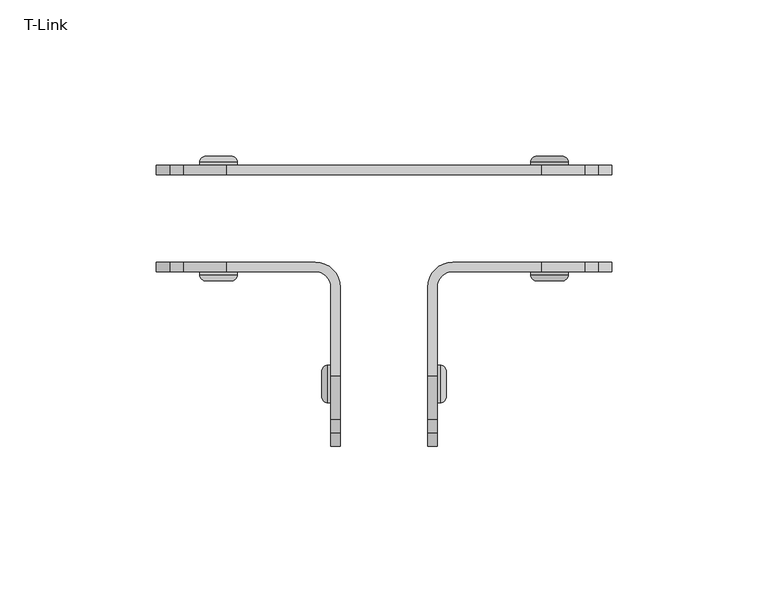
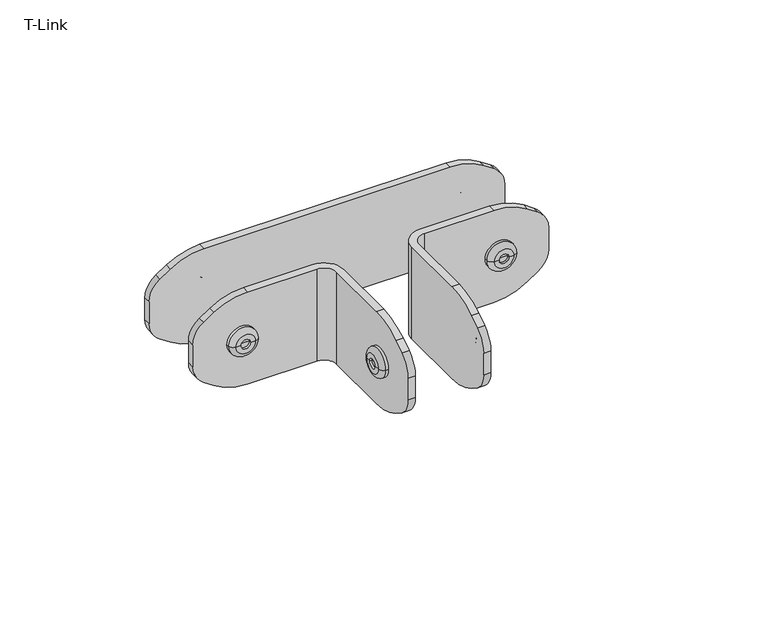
"""IFC4 building model written with IfcOpenShell, lengths in millimetres: furniture geometry, DBLTD_Sixteen3_PrivacyScreens_Artus_Bracket : T-Link."""

from ifc_helpers import new_model, si_unit, point, frame, frame_2d, origin, place, context, project, spatial, polyline, circle_curve, ellipse_curve, trimmed, segment, composite_curve, outline, extrude, source, transform, mapped, element, save
from ifc_brep_helpers import plane_surface, cylinder_surface, revolved_surface, advanced_brep


def t_link_2f3e7760(model_context):
    return source(origin(), model_context, "Body", "SolidModel", [
        advanced_brep(
        [(17.9858199, 773.0, 100.0), (17.9858199, 761.0, 100.0), (17.0, 761.0, 100.0), (17.0, 773.0, 100.0), (17.0, 767.0, 100.0), (19.0, 767.0, 100.0), (19.0, 765.0, 100.0), (19.0, 769.0, 100.0), (20.0, 765.0, 100.0), (20.0, 769.0, 100.0), (20.0, 763.0141801, 100.0), (20.0, 770.9858199, 100.0)],
        [
            (0, 1, circle_curve(frame((17.9858199, 767.0, 100.0), z_axis=(-1.0, 0.0, 0.0), x_axis=(0.0, -1.0, 0.0)), 6.0)),
            (1, 2),
            (2, 3, circle_curve(frame((17.0, 767.0, 100.0), z_axis=(1.0, 0.0, 0.0), x_axis=(0.0, -1.0, 0.0)), 6.0)),
            (3, 0),
            (1, 0, circle_curve(frame((17.9858199, 767.0, 100.0), z_axis=(-1.0, 0.0, 0.0), x_axis=(0.0, -1.0, 0.0)), 6.0)),
            (3, 2, circle_curve(frame((17.0, 767.0, 100.0), z_axis=(1.0, 0.0, 0.0), x_axis=(0.0, -1.0, 0.0)), 6.0)),
            (2, 4),
            (4, 3),
            (5, 6),
            (6, 7, circle_curve(frame((19.0, 767.0, 100.0), z_axis=(1.0, 0.0, 0.0), x_axis=(0.0, -1.0, 0.0)), 2.0)),
            (7, 5),
            (7, 6, circle_curve(frame((19.0, 767.0, 100.0), z_axis=(1.0, 0.0, 0.0), x_axis=(0.0, -1.0, 0.0)), 2.0)),
            (6, 8),
            (8, 9, circle_curve(frame((20.0, 767.0, 100.0), z_axis=(1.0, 0.0, 0.0), x_axis=(0.0, -1.0, 0.0)), 2.0)),
            (9, 7),
            (9, 8, circle_curve(frame((20.0, 767.0, 100.0), z_axis=(1.0, 0.0, 0.0), x_axis=(0.0, -1.0, 0.0)), 2.0)),
            (8, 10),
            (10, 11, circle_curve(frame((20.0, 767.0, 100.0), z_axis=(1.0, 0.0, 0.0), x_axis=(0.0, -1.0, 0.0)), 3.9858199)),
            (11, 9),
            (11, 10, circle_curve(frame((20.0, 767.0, 100.0), z_axis=(1.0, 0.0, 0.0), x_axis=(0.0, -1.0, 0.0)), 3.9858199)),
            (10, 1, circle_curve(frame((17.9858199, 763.0141801, 100.0), z_axis=(0.0, 0.0, -1.0), x_axis=(0.0, 1.0, 0.0)), 2.0141801)),
            (0, 11, circle_curve(frame((17.9858199, 770.9858199, 100.0), z_axis=(0.0, 0.0, -1.0), x_axis=(0.0, -1.0, 0.0)), 2.0141801)),
        ],
        [
            cylinder_surface(frame((18.424474, 767.0, 100.0), z_axis=(1.0, 0.0, 0.0), x_axis=(0.0, -1.0, 0.0)), 6.0),
            plane_surface(frame((17.0, 767.0, 100.0), z_axis=(-1.0, 0.0, 0.0), x_axis=(0.0, -1.0, 0.0))),
            plane_surface(frame((19.0, 767.0, 100.0), z_axis=(1.0, 0.0, 0.0), x_axis=(0.0, -1.0, 0.0))),
            revolved_surface(polyline([(20.0, 765.0, 100.0), (19.0, 765.0, 100.0)]), (18.424474, 767.0, 100.0), (1.0, 0.0, 0.0)),
            plane_surface(frame((20.0, 767.0, 100.0), z_axis=(1.0, 0.0, 0.0), x_axis=(0.0, -1.0, 0.0))),
            revolved_surface(trimmed(ellipse_curve(frame((17.9858199, 763.0141801, 100.0), z_axis=(0.0, 0.0, 1.0), x_axis=(0.0, 1.0, 0.0)), 2.0141801, 2.0141801), [point((17.9858199, 761.0, 100.0))], [point((20.0, 763.0141801, 100.0))], True, "CARTESIAN"), (18.424474, 767.0, 100.0), (1.0, 0.0, 0.0)),
        ],
        [
            (0, [[1, 2, 3, 4]]),
            (0, [[5, -4, 6, -2]]),
            (1, [[-3, 7, 8]]),
            (1, [[-6, -8, -7]]),
            (2, [[9, 10, 11]]),
            (2, [[-11, 12, -9]]),
            (3, [[-10, 13, 14, 15]]),
            (3, [[-12, -15, 16, -13]]),
            (4, [[-14, 17, 18, 19]]),
            (4, [[-16, -19, 20, -17]]),
            (5, [[-18, 21, -1, 22]]),
            (5, [[-20, -22, -5, -21]]),
        ],
    ),
        advanced_brep(
        [(-17.0, 773.0, 100.0), (-17.0, 761.0, 100.0), (-17.9858199, 761.0, 100.0), (-17.9858199, 773.0, 100.0), (-17.0, 767.0, 100.0), (-19.0, 769.0, 100.0), (-19.0, 765.0, 100.0), (-19.0, 767.0, 100.0), (-20.0, 769.0, 100.0), (-20.0, 765.0, 100.0), (-20.0, 770.9858199, 100.0), (-20.0, 763.0141801, 100.0)],
        [
            (0, 1, circle_curve(frame((-17.0, 767.0, 100.0), z_axis=(-1.0, 0.0, 0.0), x_axis=(0.0, -1.0, 0.0)), 6.0)),
            (1, 2),
            (2, 3, circle_curve(frame((-17.9858199, 767.0, 100.0), z_axis=(1.0, 0.0, 0.0), x_axis=(0.0, -1.0, 0.0)), 6.0)),
            (3, 0),
            (1, 0, circle_curve(frame((-17.0, 767.0, 100.0), z_axis=(-1.0, 0.0, 0.0), x_axis=(0.0, -1.0, 0.0)), 6.0)),
            (3, 2, circle_curve(frame((-17.9858199, 767.0, 100.0), z_axis=(1.0, 0.0, 0.0), x_axis=(0.0, -1.0, 0.0)), 6.0)),
            (4, 1),
            (0, 4),
            (5, 6, circle_curve(frame((-19.0, 767.0, 100.0), z_axis=(-1.0, 0.0, 0.0), x_axis=(0.0, -1.0, 0.0)), 2.0)),
            (6, 7),
            (7, 5),
            (6, 5, circle_curve(frame((-19.0, 767.0, 100.0), z_axis=(-1.0, 0.0, 0.0), x_axis=(0.0, -1.0, 0.0)), 2.0)),
            (8, 9, circle_curve(frame((-20.0, 767.0, 100.0), z_axis=(-1.0, 0.0, 0.0), x_axis=(0.0, -1.0, 0.0)), 2.0)),
            (9, 6),
            (5, 8),
            (9, 8, circle_curve(frame((-20.0, 767.0, 100.0), z_axis=(-1.0, 0.0, 0.0), x_axis=(0.0, -1.0, 0.0)), 2.0)),
            (10, 11, circle_curve(frame((-20.0, 767.0, 100.0), z_axis=(-1.0, 0.0, 0.0), x_axis=(0.0, -1.0, 0.0)), 3.9858199)),
            (11, 9),
            (8, 10),
            (11, 10, circle_curve(frame((-20.0, 767.0, 100.0), z_axis=(-1.0, 0.0, 0.0), x_axis=(0.0, -1.0, 0.0)), 3.9858199)),
            (2, 11, circle_curve(frame((-17.9858199, 763.0141801, 100.0), z_axis=(0.0, 0.0, -1.0), x_axis=(0.0, 1.0, 0.0)), 2.0141801)),
            (10, 3, circle_curve(frame((-17.9858199, 770.9858199, 100.0), z_axis=(0.0, 0.0, -1.0), x_axis=(0.0, -1.0, 0.0)), 2.0141801)),
        ],
        [
            cylinder_surface(frame((-18.424474, 767.0, 100.0), z_axis=(1.0, 0.0, 0.0), x_axis=(0.0, -1.0, 0.0)), 6.0),
            plane_surface(frame((-17.0, 767.0, 100.0), z_axis=(1.0, 0.0, 0.0), x_axis=(0.0, -1.0, 0.0))),
            plane_surface(frame((-19.0, 767.0, 100.0), z_axis=(-1.0, 0.0, 0.0), x_axis=(0.0, -1.0, 0.0))),
            revolved_surface(polyline([(-19.0, 765.0, 100.0), (-20.0, 765.0, 100.0)]), (-18.424474, 767.0, 100.0), (1.0, 0.0, 0.0)),
            plane_surface(frame((-20.0, 767.0, 100.0), z_axis=(-1.0, 0.0, 0.0), x_axis=(0.0, -1.0, 0.0))),
            revolved_surface(trimmed(ellipse_curve(frame((-17.9858199, 763.0141801, 100.0), z_axis=(0.0, 0.0, 1.0), x_axis=(0.0, 1.0, 0.0)), 2.0141801, 2.0141801), [point((-20.0, 763.0141801, 100.0))], [point((-17.9858199, 761.0, 100.0))], True, "CARTESIAN"), (-18.424474, 767.0, 100.0), (1.0, 0.0, 0.0)),
        ],
        [
            (0, [[1, 2, 3, 4]]),
            (0, [[5, -4, 6, -2]]),
            (1, [[7, -1, 8]]),
            (1, [[-8, -5, -7]]),
            (2, [[9, 10, 11]]),
            (2, [[12, -11, -10]]),
            (3, [[13, 14, -9, 15]]),
            (3, [[16, -15, -12, -14]]),
            (4, [[17, 18, -13, 19]]),
            (4, [[20, -19, -16, -18]]),
            (5, [[-3, 21, -17, 22]]),
            (5, [[-6, -22, -20, -21]]),
        ],
    ),
        advanced_brep(
        [(47.0, 803.0, 100.0), (59.0, 803.0, 100.0), (59.0, 802.0141801, 100.0), (47.0, 802.0141801, 100.0), (53.0, 803.0, 100.0), (51.0, 801.0, 100.0), (55.0, 801.0, 100.0), (53.0, 801.0, 100.0), (51.0, 800.0, 100.0), (55.0, 800.0, 100.0), (49.0141801, 800.0, 100.0), (56.9858199, 800.0, 100.0)],
        [
            (0, 1, circle_curve(frame((53.0, 803.0, 100.0), z_axis=(0.0, -1.0, 0.0), x_axis=(1.0, 0.0, 0.0)), 6.0)),
            (1, 2),
            (2, 3, circle_curve(frame((53.0, 802.0141801, 100.0), z_axis=(0.0, 1.0, 0.0), x_axis=(1.0, 0.0, 0.0)), 6.0)),
            (3, 0),
            (1, 0, circle_curve(frame((53.0, 803.0, 100.0), z_axis=(0.0, -1.0, 0.0), x_axis=(1.0, 0.0, 0.0)), 6.0)),
            (3, 2, circle_curve(frame((53.0, 802.0141801, 100.0), z_axis=(0.0, 1.0, 0.0), x_axis=(1.0, 0.0, 0.0)), 6.0)),
            (4, 1),
            (0, 4),
            (5, 6, circle_curve(frame((53.0, 801.0, 100.0), z_axis=(0.0, -1.0, 0.0), x_axis=(1.0, 0.0, 0.0)), 2.0)),
            (6, 7),
            (7, 5),
            (6, 5, circle_curve(frame((53.0, 801.0, 100.0), z_axis=(0.0, -1.0, 0.0), x_axis=(1.0, 0.0, 0.0)), 2.0)),
            (8, 9, circle_curve(frame((53.0, 800.0, 100.0), z_axis=(0.0, -1.0, 0.0), x_axis=(1.0, 0.0, 0.0)), 2.0)),
            (9, 6),
            (5, 8),
            (9, 8, circle_curve(frame((53.0, 800.0, 100.0), z_axis=(0.0, -1.0, 0.0), x_axis=(1.0, 0.0, 0.0)), 2.0)),
            (10, 11, circle_curve(frame((53.0, 800.0, 100.0), z_axis=(0.0, -1.0, 0.0), x_axis=(1.0, 0.0, 0.0)), 3.9858199)),
            (11, 9),
            (8, 10),
            (11, 10, circle_curve(frame((53.0, 800.0, 100.0), z_axis=(0.0, -1.0, 0.0), x_axis=(1.0, 0.0, 0.0)), 3.9858199)),
            (2, 11, circle_curve(frame((56.9858199, 802.0141801, 100.0), z_axis=(0.0, 0.0, -1.0), x_axis=(-1.0, 0.0, 0.0)), 2.0141801)),
            (10, 3, circle_curve(frame((49.0141801, 802.0141801, 100.0), z_axis=(0.0, 0.0, -1.0), x_axis=(1.0, 0.0, 0.0)), 2.0141801)),
        ],
        [
            cylinder_surface(frame((53.0, 801.575526, 100.0), z_axis=(0.0, 1.0, 0.0), x_axis=(1.0, 0.0, 0.0)), 6.0),
            plane_surface(frame((53.0, 803.0, 100.0), z_axis=(0.0, 1.0, 0.0), x_axis=(1.0, 0.0, 0.0))),
            plane_surface(frame((53.0, 801.0, 100.0), z_axis=(0.0, -1.0, 0.0), x_axis=(1.0, 0.0, 0.0))),
            revolved_surface(polyline([(55.0, 801.0, 100.0), (55.0, 800.0, 100.0)]), (53.0, 801.575526, 100.0), (0.0, 1.0, 0.0)),
            plane_surface(frame((53.0, 800.0, 100.0), z_axis=(0.0, -1.0, 0.0), x_axis=(1.0, 0.0, 0.0))),
            revolved_surface(trimmed(ellipse_curve(frame((56.9858199, 802.0141801, 100.0), z_axis=(0.0, 0.0, 1.0), x_axis=(-1.0, 0.0, 0.0)), 2.0141801, 2.0141801), [point((56.9858199, 800.0, 100.0))], [point((59.0, 802.0141801, 100.0))], True, "CARTESIAN"), (53.0, 801.575526, 100.0), (0.0, 1.0, 0.0)),
        ],
        [
            (0, [[1, 2, 3, 4]]),
            (0, [[5, -4, 6, -2]]),
            (1, [[7, -1, 8]]),
            (1, [[-8, -5, -7]]),
            (2, [[9, 10, 11]]),
            (2, [[12, -11, -10]]),
            (3, [[13, 14, -9, 15]]),
            (3, [[16, -15, -12, -14]]),
            (4, [[17, 18, -13, 19]]),
            (4, [[20, -19, -16, -18]]),
            (5, [[-3, 21, -17, 22]]),
            (5, [[-6, -22, -20, -21]]),
        ],
    ),
        advanced_brep(
        [(47.0, 837.9858199, 100.0), (59.0, 837.9858199, 100.0), (59.0, 837.0, 100.0), (47.0, 837.0, 100.0), (53.0, 837.0, 100.0), (53.0, 839.0, 100.0), (55.0, 839.0, 100.0), (51.0, 839.0, 100.0), (55.0, 840.0, 100.0), (51.0, 840.0, 100.0), (56.9858199, 840.0, 100.0), (49.0141801, 840.0, 100.0)],
        [
            (0, 1, circle_curve(frame((53.0, 837.9858199, 100.0), z_axis=(0.0, -1.0, 0.0), x_axis=(1.0, 0.0, 0.0)), 6.0)),
            (1, 2),
            (2, 3, circle_curve(frame((53.0, 837.0, 100.0), z_axis=(0.0, 1.0, 0.0), x_axis=(1.0, 0.0, 0.0)), 6.0)),
            (3, 0),
            (1, 0, circle_curve(frame((53.0, 837.9858199, 100.0), z_axis=(0.0, -1.0, 0.0), x_axis=(1.0, 0.0, 0.0)), 6.0)),
            (3, 2, circle_curve(frame((53.0, 837.0, 100.0), z_axis=(0.0, 1.0, 0.0), x_axis=(1.0, 0.0, 0.0)), 6.0)),
            (2, 4),
            (4, 3),
            (5, 6),
            (6, 7, circle_curve(frame((53.0, 839.0, 100.0), z_axis=(0.0, 1.0, 0.0), x_axis=(1.0, 0.0, 0.0)), 2.0)),
            (7, 5),
            (7, 6, circle_curve(frame((53.0, 839.0, 100.0), z_axis=(0.0, 1.0, 0.0), x_axis=(1.0, 0.0, 0.0)), 2.0)),
            (6, 8),
            (8, 9, circle_curve(frame((53.0, 840.0, 100.0), z_axis=(0.0, 1.0, 0.0), x_axis=(1.0, 0.0, 0.0)), 2.0)),
            (9, 7),
            (9, 8, circle_curve(frame((53.0, 840.0, 100.0), z_axis=(0.0, 1.0, 0.0), x_axis=(1.0, 0.0, 0.0)), 2.0)),
            (8, 10),
            (10, 11, circle_curve(frame((53.0, 840.0, 100.0), z_axis=(0.0, 1.0, 0.0), x_axis=(1.0, 0.0, 0.0)), 3.9858199)),
            (11, 9),
            (11, 10, circle_curve(frame((53.0, 840.0, 100.0), z_axis=(0.0, 1.0, 0.0), x_axis=(1.0, 0.0, 0.0)), 3.9858199)),
            (10, 1, circle_curve(frame((56.9858199, 837.9858199, 100.0), z_axis=(0.0, 0.0, -1.0), x_axis=(-1.0, 0.0, 0.0)), 2.0141801)),
            (0, 11, circle_curve(frame((49.0141801, 837.9858199, 100.0), z_axis=(0.0, 0.0, -1.0), x_axis=(1.0, 0.0, 0.0)), 2.0141801)),
        ],
        [
            cylinder_surface(frame((53.0, 838.424474, 100.0), z_axis=(0.0, 1.0, 0.0), x_axis=(1.0, 0.0, 0.0)), 6.0),
            plane_surface(frame((53.0, 837.0, 100.0), z_axis=(0.0, -1.0, 0.0), x_axis=(1.0, 0.0, 0.0))),
            plane_surface(frame((53.0, 839.0, 100.0), z_axis=(0.0, 1.0, 0.0), x_axis=(1.0, 0.0, 0.0))),
            revolved_surface(polyline([(55.0, 840.0, 100.0), (55.0, 839.0, 100.0)]), (53.0, 838.424474, 100.0), (0.0, 1.0, 0.0)),
            plane_surface(frame((53.0, 840.0, 100.0), z_axis=(0.0, 1.0, 0.0), x_axis=(1.0, 0.0, 0.0))),
            revolved_surface(trimmed(ellipse_curve(frame((56.9858199, 837.9858199, 100.0), z_axis=(0.0, 0.0, 1.0), x_axis=(-1.0, 0.0, 0.0)), 2.0141801, 2.0141801), [point((59.0, 837.9858199, 100.0))], [point((56.9858199, 840.0, 100.0))], True, "CARTESIAN"), (53.0, 838.424474, 100.0), (0.0, 1.0, 0.0)),
        ],
        [
            (0, [[1, 2, 3, 4]]),
            (0, [[5, -4, 6, -2]]),
            (1, [[-3, 7, 8]]),
            (1, [[-6, -8, -7]]),
            (2, [[9, 10, 11]]),
            (2, [[-11, 12, -9]]),
            (3, [[-10, 13, 14, 15]]),
            (3, [[-12, -15, 16, -13]]),
            (4, [[-14, 17, 18, 19]]),
            (4, [[-16, -19, 20, -17]]),
            (5, [[-18, 21, -1, 22]]),
            (5, [[-20, -22, -5, -21]]),
        ],
    ),
        advanced_brep(
        [(-47.0, 802.0141801, 100.0), (-59.0, 802.0141801, 100.0), (-59.0, 803.0, 100.0), (-47.0, 803.0, 100.0), (-53.0, 803.0, 100.0), (-53.0, 801.0, 100.0), (-55.0, 801.0, 100.0), (-51.0, 801.0, 100.0), (-55.0, 800.0, 100.0), (-51.0, 800.0, 100.0), (-56.9858199, 800.0, 100.0), (-49.0141801, 800.0, 100.0)],
        [
            (0, 1, circle_curve(frame((-53.0, 802.0141801, 100.0), z_axis=(0.0, 1.0, 0.0), x_axis=(-1.0, 0.0, 0.0)), 6.0)),
            (1, 2),
            (2, 3, circle_curve(frame((-53.0, 803.0, 100.0), z_axis=(0.0, -1.0, 0.0), x_axis=(-1.0, 0.0, 0.0)), 6.0)),
            (3, 0),
            (1, 0, circle_curve(frame((-53.0, 802.0141801, 100.0), z_axis=(0.0, 1.0, 0.0), x_axis=(-1.0, 0.0, 0.0)), 6.0)),
            (3, 2, circle_curve(frame((-53.0, 803.0, 100.0), z_axis=(0.0, -1.0, 0.0), x_axis=(-1.0, 0.0, 0.0)), 6.0)),
            (2, 4),
            (4, 3),
            (5, 6),
            (6, 7, circle_curve(frame((-53.0, 801.0, 100.0), z_axis=(0.0, -1.0, 0.0), x_axis=(-1.0, 0.0, 0.0)), 2.0)),
            (7, 5),
            (7, 6, circle_curve(frame((-53.0, 801.0, 100.0), z_axis=(0.0, -1.0, 0.0), x_axis=(-1.0, 0.0, 0.0)), 2.0)),
            (6, 8),
            (8, 9, circle_curve(frame((-53.0, 800.0, 100.0), z_axis=(0.0, -1.0, 0.0), x_axis=(-1.0, 0.0, 0.0)), 2.0)),
            (9, 7),
            (9, 8, circle_curve(frame((-53.0, 800.0, 100.0), z_axis=(0.0, -1.0, 0.0), x_axis=(-1.0, 0.0, 0.0)), 2.0)),
            (8, 10),
            (10, 11, circle_curve(frame((-53.0, 800.0, 100.0), z_axis=(0.0, -1.0, 0.0), x_axis=(-1.0, 0.0, 0.0)), 3.9858199)),
            (11, 9),
            (11, 10, circle_curve(frame((-53.0, 800.0, 100.0), z_axis=(0.0, -1.0, 0.0), x_axis=(-1.0, 0.0, 0.0)), 3.9858199)),
            (10, 1, circle_curve(frame((-56.9858199, 802.0141801, 100.0), z_axis=(0.0, 0.0, -1.0), x_axis=(1.0, 0.0, 0.0)), 2.0141801)),
            (0, 11, circle_curve(frame((-49.0141801, 802.0141801, 100.0), z_axis=(0.0, 0.0, -1.0), x_axis=(-1.0, 0.0, 0.0)), 2.0141801)),
        ],
        [
            cylinder_surface(frame((-53.0, 801.575526, 100.0), z_axis=(0.0, -1.0, 0.0), x_axis=(-1.0, 0.0, 0.0)), 6.0),
            plane_surface(frame((-53.0, 803.0, 100.0), z_axis=(0.0, 1.0, 0.0), x_axis=(-1.0, 0.0, 0.0))),
            plane_surface(frame((-53.0, 801.0, 100.0), z_axis=(0.0, -1.0, 0.0), x_axis=(-1.0, 0.0, 0.0))),
            revolved_surface(polyline([(-55.0, 800.0, 100.0), (-55.0, 801.0, 100.0)]), (-53.0, 801.575526, 100.0), (0.0, -1.0, 0.0)),
            plane_surface(frame((-53.0, 800.0, 100.0), z_axis=(0.0, -1.0, 0.0), x_axis=(-1.0, 0.0, 0.0))),
            revolved_surface(trimmed(ellipse_curve(frame((-56.9858199, 802.0141801, 100.0), z_axis=(0.0, 0.0, 1.0), x_axis=(1.0, 0.0, 0.0)), 2.0141801, 2.0141801), [point((-59.0, 802.0141801, 100.0))], [point((-56.9858199, 800.0, 100.0))], True, "CARTESIAN"), (-53.0, 801.575526, 100.0), (0.0, -1.0, 0.0)),
        ],
        [
            (0, [[1, 2, 3, 4]]),
            (0, [[5, -4, 6, -2]]),
            (1, [[-3, 7, 8]]),
            (1, [[-6, -8, -7]]),
            (2, [[9, 10, 11]]),
            (2, [[-11, 12, -9]]),
            (3, [[-10, 13, 14, 15]]),
            (3, [[-12, -15, 16, -13]]),
            (4, [[-14, 17, 18, 19]]),
            (4, [[-16, -19, 20, -17]]),
            (5, [[-18, 21, -1, 22]]),
            (5, [[-20, -22, -5, -21]]),
        ],
    ),
        advanced_brep(
        [(-47.0, 837.0, 100.0), (-59.0, 837.0, 100.0), (-59.0, 837.9858199, 100.0), (-47.0, 837.9858199, 100.0), (-53.0, 837.0, 100.0), (-51.0, 839.0, 100.0), (-55.0, 839.0, 100.0), (-53.0, 839.0, 100.0), (-51.0, 840.0, 100.0), (-55.0, 840.0, 100.0), (-49.0141801, 840.0, 100.0), (-56.9858199, 840.0, 100.0)],
        [
            (0, 1, circle_curve(frame((-53.0, 837.0, 100.0), z_axis=(0.0, 1.0, 0.0), x_axis=(-1.0, 0.0, 0.0)), 6.0)),
            (1, 2),
            (2, 3, circle_curve(frame((-53.0, 837.9858199, 100.0), z_axis=(0.0, -1.0, 0.0), x_axis=(-1.0, 0.0, 0.0)), 6.0)),
            (3, 0),
            (1, 0, circle_curve(frame((-53.0, 837.0, 100.0), z_axis=(0.0, 1.0, 0.0), x_axis=(-1.0, 0.0, 0.0)), 6.0)),
            (3, 2, circle_curve(frame((-53.0, 837.9858199, 100.0), z_axis=(0.0, -1.0, 0.0), x_axis=(-1.0, 0.0, 0.0)), 6.0)),
            (4, 1),
            (0, 4),
            (5, 6, circle_curve(frame((-53.0, 839.0, 100.0), z_axis=(0.0, 1.0, 0.0), x_axis=(-1.0, 0.0, 0.0)), 2.0)),
            (6, 7),
            (7, 5),
            (6, 5, circle_curve(frame((-53.0, 839.0, 100.0), z_axis=(0.0, 1.0, 0.0), x_axis=(-1.0, 0.0, 0.0)), 2.0)),
            (8, 9, circle_curve(frame((-53.0, 840.0, 100.0), z_axis=(0.0, 1.0, 0.0), x_axis=(-1.0, 0.0, 0.0)), 2.0)),
            (9, 6),
            (5, 8),
            (9, 8, circle_curve(frame((-53.0, 840.0, 100.0), z_axis=(0.0, 1.0, 0.0), x_axis=(-1.0, 0.0, 0.0)), 2.0)),
            (10, 11, circle_curve(frame((-53.0, 840.0, 100.0), z_axis=(0.0, 1.0, 0.0), x_axis=(-1.0, 0.0, 0.0)), 3.9858199)),
            (11, 9),
            (8, 10),
            (11, 10, circle_curve(frame((-53.0, 840.0, 100.0), z_axis=(0.0, 1.0, 0.0), x_axis=(-1.0, 0.0, 0.0)), 3.9858199)),
            (2, 11, circle_curve(frame((-56.9858199, 837.9858199, 100.0), z_axis=(0.0, 0.0, -1.0), x_axis=(1.0, 0.0, 0.0)), 2.0141801)),
            (10, 3, circle_curve(frame((-49.0141801, 837.9858199, 100.0), z_axis=(0.0, 0.0, -1.0), x_axis=(-1.0, 0.0, 0.0)), 2.0141801)),
        ],
        [
            cylinder_surface(frame((-53.0, 838.424474, 100.0), z_axis=(0.0, -1.0, 0.0), x_axis=(-1.0, 0.0, 0.0)), 6.0),
            plane_surface(frame((-53.0, 837.0, 100.0), z_axis=(0.0, -1.0, 0.0), x_axis=(-1.0, 0.0, 0.0))),
            plane_surface(frame((-53.0, 839.0, 100.0), z_axis=(0.0, 1.0, 0.0), x_axis=(-1.0, 0.0, 0.0))),
            revolved_surface(polyline([(-55.0, 839.0, 100.0), (-55.0, 840.0, 100.0)]), (-53.0, 838.424474, 100.0), (0.0, -1.0, 0.0)),
            plane_surface(frame((-53.0, 840.0, 100.0), z_axis=(0.0, 1.0, 0.0), x_axis=(-1.0, 0.0, 0.0))),
            revolved_surface(trimmed(ellipse_curve(frame((-56.9858199, 837.9858199, 100.0), z_axis=(0.0, 0.0, 1.0), x_axis=(1.0, 0.0, 0.0)), 2.0141801, 2.0141801), [point((-56.9858199, 840.0, 100.0))], [point((-59.0, 837.9858199, 100.0))], True, "CARTESIAN"), (-53.0, 838.424474, 100.0), (0.0, -1.0, 0.0)),
        ],
        [
            (0, [[1, 2, 3, 4]]),
            (0, [[5, -4, 6, -2]]),
            (1, [[7, -1, 8]]),
            (1, [[-8, -5, -7]]),
            (2, [[9, 10, 11]]),
            (2, [[12, -11, -10]]),
            (3, [[13, 14, -9, 15]]),
            (3, [[16, -15, -12, -14]]),
            (4, [[17, 18, -13, 19]]),
            (4, [[20, -19, -16, -18]]),
            (5, [[-3, 21, -17, 22]]),
            (5, [[-6, -22, -20, -21]]),
        ],
    ),
        advanced_brep(
        [(22.0, 806.0, 120.0), (14.0, 798.0, 120.0), (14.0, 769.5693909, 120.0), (17.0, 769.5693909, 120.0), (17.0, 798.0, 120.0), (22.0, 803.0, 120.0), (50.4306091, 803.0, 120.0), (50.4306091, 806.0, 120.0), (22.0, 803.0, 80.0), (17.0, 798.0, 80.0), (17.0, 769.5693909, 80.0), (14.0, 769.5693909, 80.0), (14.0, 798.0, 80.0), (22.0, 806.0, 80.0), (50.4306091, 806.0, 80.0), (50.4306091, 803.0, 80.0), (17.0, 755.701886, 115.8012574), (17.0, 751.452998, 112.9686654), (17.0, 747.0, 104.6481624), (17.0, 747.0, 95.3518376), (17.0, 751.452998, 87.0313346), (17.0, 755.701886, 84.1987426), (14.0, 747.0, 104.6481624), (14.0, 747.0, 95.3518376), (14.0, 755.701886, 84.1987426), (14.0, 751.452998, 87.0313346), (14.0, 751.452998, 112.9686654), (14.0, 755.701886, 115.8012574), (64.298114, 806.0, 115.8012574), (68.547002, 806.0, 112.9686654), (73.0, 806.0, 104.6481624), (73.0, 806.0, 95.3518376), (68.547002, 806.0, 87.0313346), (64.298114, 806.0, 84.1987426), (73.0, 803.0, 104.6481624), (73.0, 803.0, 95.3518376), (64.298114, 803.0, 84.1987426), (68.547002, 803.0, 87.0313346), (68.547002, 803.0, 112.9686654), (64.298114, 803.0, 115.8012574)],
        [
            (0, 1, circle_curve(frame((22.0, 798.0, 120.0), z_axis=(0.0, 0.0, 1.0), x_axis=(0.0, 1.0, 0.0)), 8.0)),
            (1, 2),
            (2, 3),
            (3, 4),
            (4, 5, circle_curve(frame((22.0, 798.0, 120.0), z_axis=(0.0, 0.0, -1.0), x_axis=(0.0, 1.0, 0.0)), 5.0)),
            (5, 6),
            (6, 7),
            (7, 0),
            (8, 9, circle_curve(frame((22.0, 798.0, 80.0), z_axis=(0.0, 0.0, 1.0), x_axis=(0.0, 1.0, 0.0)), 5.0)),
            (9, 10),
            (10, 11),
            (11, 12),
            (12, 13, circle_curve(frame((22.0, 798.0, 80.0), z_axis=(0.0, 0.0, -1.0), x_axis=(0.0, 1.0, 0.0)), 8.0)),
            (13, 14),
            (14, 15),
            (15, 8),
            (4, 9),
            (8, 5),
            (3, 16, circle_curve(frame((17.0, 769.5693909, 95.0), z_axis=(1.0, 0.0, 0.0), x_axis=(0.0, 1.0, 0.0)), 25.0)),
            (16, 17),
            (17, 18, circle_curve(frame((17.0, 757.0, 104.6481624), z_axis=(1.0, 0.0, 0.0), x_axis=(0.0, 1.0, 0.0)), 10.0)),
            (18, 19),
            (19, 20, circle_curve(frame((17.0, 757.0, 95.3518376), z_axis=(1.0, 0.0, 0.0), x_axis=(0.0, 1.0, 0.0)), 10.0)),
            (20, 21),
            (21, 10, circle_curve(frame((17.0, 769.5693909, 105.0), z_axis=(1.0, 0.0, 0.0), x_axis=(0.0, 1.0, 0.0)), 25.0)),
            (18, 22),
            (22, 23),
            (23, 19),
            (1, 12),
            (11, 24, circle_curve(frame((14.0, 769.5693909, 105.0), z_axis=(-1.0, 0.0, 0.0), x_axis=(0.0, 1.0, 0.0)), 25.0)),
            (24, 25),
            (25, 23, circle_curve(frame((14.0, 757.0, 95.3518376), z_axis=(-1.0, 0.0, 0.0), x_axis=(0.0, 1.0, 0.0)), 10.0)),
            (22, 26, circle_curve(frame((14.0, 757.0, 104.6481624), z_axis=(-1.0, 0.0, 0.0), x_axis=(0.0, 1.0, 0.0)), 10.0)),
            (26, 27),
            (27, 2, circle_curve(frame((14.0, 769.5693909, 95.0), z_axis=(-1.0, 0.0, 0.0), x_axis=(0.0, 1.0, 0.0)), 25.0)),
            (0, 13),
            (7, 28, circle_curve(frame((50.4306091, 806.0, 95.0), z_axis=(0.0, 1.0, 0.0), x_axis=(-1.0, 0.0, 0.0)), 25.0)),
            (28, 29),
            (29, 30, circle_curve(frame((63.0, 806.0, 104.6481624), z_axis=(0.0, 1.0, 0.0), x_axis=(-1.0, 0.0, 0.0)), 10.0)),
            (30, 31),
            (31, 32, circle_curve(frame((63.0, 806.0, 95.3518376), z_axis=(0.0, 1.0, 0.0), x_axis=(-1.0, 0.0, 0.0)), 10.0)),
            (32, 33),
            (33, 14, circle_curve(frame((50.4306091, 806.0, 105.0), z_axis=(0.0, 1.0, 0.0), x_axis=(-1.0, 0.0, 0.0)), 25.0)),
            (30, 34),
            (34, 35),
            (35, 31),
            (15, 36, circle_curve(frame((50.4306091, 803.0, 105.0), z_axis=(0.0, -1.0, 0.0), x_axis=(-1.0, 0.0, 0.0)), 25.0)),
            (36, 37),
            (37, 35, circle_curve(frame((63.0, 803.0, 95.3518376), z_axis=(0.0, -1.0, 0.0), x_axis=(-1.0, 0.0, 0.0)), 10.0)),
            (34, 38, circle_curve(frame((63.0, 803.0, 104.6481624), z_axis=(0.0, -1.0, 0.0), x_axis=(-1.0, 0.0, 0.0)), 10.0)),
            (38, 39),
            (39, 6, circle_curve(frame((50.4306091, 803.0, 95.0), z_axis=(0.0, -1.0, 0.0), x_axis=(-1.0, 0.0, 0.0)), 25.0)),
            (25, 20),
            (24, 21),
            (27, 16),
            (26, 17),
            (37, 32),
            (36, 33),
            (39, 28),
            (38, 29),
        ],
        [
            plane_surface(frame((73.0, 803.0, 120.0), z_axis=(0.0, 0.0, 1.0), x_axis=(1.0, 0.0, 0.0))),
            plane_surface(frame((73.0, 803.0, 80.0), z_axis=(0.0, 0.0, -1.0), x_axis=(-1.0, 0.0, 0.0))),
            revolved_surface(polyline([(22.0, 803.0, 80.0), (22.0, 803.0, 120.0)]), (22.0, 798.0, 80.0), (0.0, 0.0, -1.0)),
            plane_surface(frame((17.0, 747.0, 120.0), z_axis=(1.0, 0.0, 0.0), x_axis=(0.0, 0.0, -1.0))),
            plane_surface(frame((14.0, 747.0, 120.0), z_axis=(0.0, -1.0, 0.0), x_axis=(0.0, 0.0, -1.0))),
            plane_surface(frame((14.0, 798.0, 120.0), z_axis=(-1.0, 0.0, 0.0), x_axis=(0.0, 0.0, -1.0))),
            cylinder_surface(frame((22.0, 798.0, 80.0), z_axis=(0.0, 0.0, 1.0), x_axis=(0.0, 1.0, 0.0)), 8.0),
            plane_surface(frame((73.0, 806.0, 120.0), z_axis=(0.0, 1.0, 0.0), x_axis=(0.0, 0.0, -1.0))),
            plane_surface(frame((73.0, 803.0, 120.0), z_axis=(1.0, 0.0, 0.0), x_axis=(0.0, 0.0, -1.0))),
            plane_surface(frame((22.0, 803.0, 120.0), z_axis=(0.0, -1.0, 0.0), x_axis=(0.0, 0.0, -1.0))),
            cylinder_surface(frame((820.0, 757.0, 95.3518376), z_axis=(-1.0, 0.0, 0.0), x_axis=(0.0, 1.0, 0.0)), 10.0),
            plane_surface(frame((17.0, 755.701886, 84.1987426), z_axis=(0.0, -0.5547001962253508, -0.8320502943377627), x_axis=(-1.0, 0.0, 0.0))),
            cylinder_surface(frame((820.0, 769.5693909, 105.0), z_axis=(-1.0, 0.0, 0.0), x_axis=(0.0, 1.0, 0.0)), 25.0),
            cylinder_surface(frame((820.0, 769.5693909, 95.0), z_axis=(-1.0, 0.0, 0.0), x_axis=(0.0, 1.0, 0.0)), 25.0),
            plane_surface(frame((17.0, 751.452998, 112.9686654), z_axis=(0.0, -0.5547001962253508, 0.8320502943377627), x_axis=(-1.0, 0.0, 0.0))),
            cylinder_surface(frame((820.0, 757.0, 104.6481624), z_axis=(-1.0, 0.0, 0.0), x_axis=(0.0, 1.0, 0.0)), 10.0),
            cylinder_surface(frame((63.0, 0.0, 95.3518376), z_axis=(0.0, 1.0, 0.0), x_axis=(-1.0, 0.0, 0.0)), 10.0),
            plane_surface(frame((68.547002, 803.0, 87.0313346), z_axis=(0.5547001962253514, 0.0, -0.8320502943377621), x_axis=(0.0, 1.0, 0.0))),
            cylinder_surface(frame((50.4306091, 0.0, 105.0), z_axis=(0.0, 1.0, 0.0), x_axis=(-1.0, 0.0, 0.0)), 25.0),
            cylinder_surface(frame((50.4306091, 0.0, 95.0), z_axis=(0.0, 1.0, 0.0), x_axis=(-1.0, 0.0, 0.0)), 25.0),
            plane_surface(frame((64.298114, 803.0, 115.8012574), z_axis=(0.5547001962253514, 0.0, 0.8320502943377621), x_axis=(0.0, 1.0, 0.0))),
            cylinder_surface(frame((63.0, 0.0, 104.6481624), z_axis=(0.0, 1.0, 0.0), x_axis=(-1.0, 0.0, 0.0)), 10.0),
        ],
        [
            (0, [[1, 2, 3, 4, 5, 6, 7, 8]]),
            (1, [[9, 10, 11, 12, 13, 14, 15, 16]]),
            (2, [[-5, 17, -9, 18]]),
            (3, [[-17, -4, 19, 20, 21, 22, 23, 24, 25, -10]]),
            (4, [[-22, 26, 27, 28]]),
            (5, [[29, -12, 30, 31, 32, -27, 33, 34, 35, -2]]),
            (6, [[-1, 36, -13, -29]]),
            (7, [[-36, -8, 37, 38, 39, 40, 41, 42, 43, -14]]),
            (8, [[-40, 44, 45, 46]]),
            (9, [[-18, -16, 47, 48, 49, -45, 50, 51, 52, -6]]),
            (10, [[53, -23, -28, -32]]),
            (11, [[-53, -31, 54, -24]]),
            (12, [[-54, -30, -11, -25]]),
            (13, [[55, -19, -3, -35]]),
            (14, [[-55, -34, 56, -20]]),
            (15, [[-56, -33, -26, -21]]),
            (16, [[57, -41, -46, -49]]),
            (17, [[-57, -48, 58, -42]]),
            (18, [[-58, -47, -15, -43]]),
            (19, [[59, -37, -7, -52]]),
            (20, [[-59, -51, 60, -38]]),
            (21, [[-60, -50, -44, -39]]),
        ],
    ),
        advanced_brep(
        [(-22.0, 803.0, 120.0), (-17.0, 798.0, 120.0), (-17.0, 769.5693909, 120.0), (-14.0, 769.5693909, 120.0), (-14.0, 798.0, 120.0), (-22.0, 806.0, 120.0), (-50.4306091, 806.0, 120.0), (-50.4306091, 803.0, 120.0), (-22.0, 806.0, 80.0), (-14.0, 798.0, 80.0), (-14.0, 769.5693909, 80.0), (-17.0, 769.5693909, 80.0), (-17.0, 798.0, 80.0), (-22.0, 803.0, 80.0), (-50.4306091, 803.0, 80.0), (-50.4306091, 806.0, 80.0), (-17.0, 755.701886, 84.1987426), (-17.0, 751.452998, 87.0313346), (-17.0, 747.0, 95.3518376), (-17.0, 747.0, 104.6481624), (-17.0, 751.452998, 112.9686654), (-17.0, 755.701886, 115.8012574), (-14.0, 747.0, 95.3518376), (-14.0, 747.0, 104.6481624), (-14.0, 755.701886, 115.8012574), (-14.0, 751.452998, 112.9686654), (-14.0, 751.452998, 87.0313346), (-14.0, 755.701886, 84.1987426), (-64.298114, 806.0, 84.1987426), (-68.547002, 806.0, 87.0313346), (-73.0, 806.0, 95.3518376), (-73.0, 806.0, 104.6481624), (-68.547002, 806.0, 112.9686654), (-64.298114, 806.0, 115.8012574), (-73.0, 803.0, 95.3518376), (-73.0, 803.0, 104.6481624), (-64.298114, 803.0, 115.8012574), (-68.547002, 803.0, 112.9686654), (-68.547002, 803.0, 87.0313346), (-64.298114, 803.0, 84.1987426)],
        [
            (0, 1, circle_curve(frame((-22.0, 798.0, 120.0), z_axis=(0.0, 0.0, -1.0), x_axis=(0.0, 1.0, 0.0)), 5.0)),
            (1, 2),
            (2, 3),
            (3, 4),
            (4, 5, circle_curve(frame((-22.0, 798.0, 120.0), z_axis=(0.0, 0.0, 1.0), x_axis=(0.0, 1.0, 0.0)), 8.0)),
            (5, 6),
            (6, 7),
            (7, 0),
            (8, 9, circle_curve(frame((-22.0, 798.0, 80.0), z_axis=(0.0, 0.0, -1.0), x_axis=(0.0, 1.0, 0.0)), 8.0)),
            (9, 10),
            (10, 11),
            (11, 12),
            (12, 13, circle_curve(frame((-22.0, 798.0, 80.0), z_axis=(0.0, 0.0, 1.0), x_axis=(0.0, 1.0, 0.0)), 5.0)),
            (13, 14),
            (14, 15),
            (15, 8),
            (0, 13),
            (12, 1),
            (11, 16, circle_curve(frame((-17.0, 769.5693909, 105.0), z_axis=(-1.0, 0.0, 0.0), x_axis=(0.0, 1.0, 0.0)), 25.0)),
            (16, 17),
            (17, 18, circle_curve(frame((-17.0, 757.0, 95.3518376), z_axis=(-1.0, 0.0, 0.0), x_axis=(0.0, 1.0, 0.0)), 10.0)),
            (18, 19),
            (19, 20, circle_curve(frame((-17.0, 757.0, 104.6481624), z_axis=(-1.0, 0.0, 0.0), x_axis=(0.0, 1.0, 0.0)), 10.0)),
            (20, 21),
            (21, 2, circle_curve(frame((-17.0, 769.5693909, 95.0), z_axis=(-1.0, 0.0, 0.0), x_axis=(0.0, 1.0, 0.0)), 25.0)),
            (18, 22),
            (22, 23),
            (23, 19),
            (9, 4),
            (3, 24, circle_curve(frame((-14.0, 769.5693909, 95.0), z_axis=(1.0, 0.0, 0.0), x_axis=(0.0, 1.0, 0.0)), 25.0)),
            (24, 25),
            (25, 23, circle_curve(frame((-14.0, 757.0, 104.6481624), z_axis=(1.0, 0.0, 0.0), x_axis=(0.0, 1.0, 0.0)), 10.0)),
            (22, 26, circle_curve(frame((-14.0, 757.0, 95.3518376), z_axis=(1.0, 0.0, 0.0), x_axis=(0.0, 1.0, 0.0)), 10.0)),
            (26, 27),
            (27, 10, circle_curve(frame((-14.0, 769.5693909, 105.0), z_axis=(1.0, 0.0, 0.0), x_axis=(0.0, 1.0, 0.0)), 25.0)),
            (8, 5),
            (15, 28, circle_curve(frame((-50.4306091, 806.0, 105.0), z_axis=(0.0, 1.0, 0.0), x_axis=(1.0, 0.0, 0.0)), 25.0)),
            (28, 29),
            (29, 30, circle_curve(frame((-63.0, 806.0, 95.3518376), z_axis=(0.0, 1.0, 0.0), x_axis=(1.0, 0.0, 0.0)), 10.0)),
            (30, 31),
            (31, 32, circle_curve(frame((-63.0, 806.0, 104.6481624), z_axis=(0.0, 1.0, 0.0), x_axis=(1.0, 0.0, 0.0)), 10.0)),
            (32, 33),
            (33, 6, circle_curve(frame((-50.4306091, 806.0, 95.0), z_axis=(0.0, 1.0, 0.0), x_axis=(1.0, 0.0, 0.0)), 25.0)),
            (30, 34),
            (34, 35),
            (35, 31),
            (7, 36, circle_curve(frame((-50.4306091, 803.0, 95.0), z_axis=(0.0, -1.0, 0.0), x_axis=(1.0, 0.0, 0.0)), 25.0)),
            (36, 37),
            (37, 35, circle_curve(frame((-63.0, 803.0, 104.6481624), z_axis=(0.0, -1.0, 0.0), x_axis=(1.0, 0.0, 0.0)), 10.0)),
            (34, 38, circle_curve(frame((-63.0, 803.0, 95.3518376), z_axis=(0.0, -1.0, 0.0), x_axis=(1.0, 0.0, 0.0)), 10.0)),
            (38, 39),
            (39, 14, circle_curve(frame((-50.4306091, 803.0, 105.0), z_axis=(0.0, -1.0, 0.0), x_axis=(1.0, 0.0, 0.0)), 25.0)),
            (39, 28),
            (38, 29),
            (37, 32),
            (36, 33),
            (17, 26),
            (16, 27),
            (21, 24),
            (20, 25),
        ],
        [
            plane_surface(frame((-22.0, 803.0, 120.0), z_axis=(0.0, 0.0, 1.0), x_axis=(1.0, 0.0, 0.0))),
            plane_surface(frame((-22.0, 803.0, 80.0), z_axis=(0.0, 0.0, -1.0), x_axis=(-1.0, 0.0, 0.0))),
            revolved_surface(polyline([(-22.0, 803.0, 80.0), (-22.0, 803.0, 120.0)]), (-22.0, 798.0, 80.0), (0.0, 0.0, -1.0)),
            plane_surface(frame((-17.0, 798.0, 120.0), z_axis=(-1.0, 0.0, 0.0), x_axis=(0.0, 0.0, -1.0))),
            plane_surface(frame((-17.0, 747.0, 120.0), z_axis=(0.0, -1.0, 0.0), x_axis=(0.0, 0.0, -1.0))),
            plane_surface(frame((-14.0, 747.0, 120.0), z_axis=(1.0, 0.0, 0.0), x_axis=(0.0, 0.0, -1.0))),
            cylinder_surface(frame((-22.0, 798.0, 80.0), z_axis=(0.0, 0.0, 1.0), x_axis=(0.0, 1.0, 0.0)), 8.0),
            plane_surface(frame((-22.0, 806.0, 120.0), z_axis=(0.0, 1.0, 0.0), x_axis=(0.0, 0.0, -1.0))),
            plane_surface(frame((-73.0, 806.0, 120.0), z_axis=(-1.0, 0.0, 0.0), x_axis=(0.0, 0.0, -1.0))),
            plane_surface(frame((-73.0, 803.0, 120.0), z_axis=(0.0, -1.0, 0.0), x_axis=(0.0, 0.0, -1.0))),
            cylinder_surface(frame((-50.4306091, 837.0, 105.0), z_axis=(0.0, 1.0, 0.0), x_axis=(1.0, 0.0, 0.0)), 25.0),
            plane_surface(frame((-64.298114, 803.0, 84.1987426), z_axis=(-0.5547001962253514, 0.0, -0.8320502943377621), x_axis=(0.0, 1.0, 0.0))),
            cylinder_surface(frame((-63.0, 837.0, 95.3518376), z_axis=(0.0, 1.0, 0.0), x_axis=(1.0, 0.0, 0.0)), 10.0),
            cylinder_surface(frame((-63.0, 0.0, 104.6481624), z_axis=(0.0, 1.0, 0.0), x_axis=(1.0, 0.0, 0.0)), 10.0),
            plane_surface(frame((-68.547002, 803.0, 112.9686654), z_axis=(-0.5547001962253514, 0.0, 0.8320502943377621), x_axis=(0.0, 1.0, 0.0))),
            cylinder_surface(frame((-50.4306091, 0.0, 95.0), z_axis=(0.0, 1.0, 0.0), x_axis=(1.0, 0.0, 0.0)), 25.0),
            cylinder_surface(frame((820.0, 757.0, 95.3518376), z_axis=(-1.0, 0.0, 0.0), x_axis=(0.0, 1.0, 0.0)), 10.0),
            plane_surface(frame((17.0, 755.701886, 84.1987426), z_axis=(0.0, -0.5547001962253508, -0.8320502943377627), x_axis=(-1.0, 0.0, 0.0))),
            cylinder_surface(frame((820.0, 769.5693909, 105.0), z_axis=(-1.0, 0.0, 0.0), x_axis=(0.0, 1.0, 0.0)), 25.0),
            cylinder_surface(frame((820.0, 769.5693909, 95.0), z_axis=(-1.0, 0.0, 0.0), x_axis=(0.0, 1.0, 0.0)), 25.0),
            plane_surface(frame((17.0, 751.452998, 112.9686654), z_axis=(0.0, -0.5547001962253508, 0.8320502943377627), x_axis=(-1.0, 0.0, 0.0))),
            cylinder_surface(frame((820.0, 757.0, 104.6481624), z_axis=(-1.0, 0.0, 0.0), x_axis=(0.0, 1.0, 0.0)), 10.0),
        ],
        [
            (0, [[1, 2, 3, 4, 5, 6, 7, 8]]),
            (1, [[9, 10, 11, 12, 13, 14, 15, 16]]),
            (2, [[-1, 17, -13, 18]]),
            (3, [[-18, -12, 19, 20, 21, 22, 23, 24, 25, -2]]),
            (4, [[-22, 26, 27, 28]]),
            (5, [[29, -4, 30, 31, 32, -27, 33, 34, 35, -10]]),
            (6, [[-5, -29, -9, 36]]),
            (7, [[-36, -16, 37, 38, 39, 40, 41, 42, 43, -6]]),
            (8, [[-40, 44, 45, 46]]),
            (9, [[-17, -8, 47, 48, 49, -45, 50, 51, 52, -14]]),
            (10, [[53, -37, -15, -52]]),
            (11, [[-53, -51, 54, -38]]),
            (12, [[-54, -50, -44, -39]]),
            (13, [[55, -41, -46, -49]]),
            (14, [[-55, -48, 56, -42]]),
            (15, [[-56, -47, -7, -43]]),
            (16, [[57, -33, -26, -21]]),
            (17, [[-57, -20, 58, -34]]),
            (18, [[-58, -19, -11, -35]]),
            (19, [[59, -30, -3, -25]]),
            (20, [[-59, -24, 60, -31]]),
            (21, [[-60, -23, -28, -32]]),
        ],
    ),
        extrude(outline(composite_curve([segment(polyline([(120.0, 50.4306091), (120.0, -50.4306091)]), True, "CONTINUOUS"), segment(trimmed(circle_curve(frame_2d((95.0, -50.4306091)), 25.0), [point((120.0, -50.4306091))], [point((115.8012574, -64.298114))], False, "CARTESIAN"), True, "CONTINUOUS"), segment(polyline([(115.8012574, -64.298114), (112.9686654, -68.547002)]), True, "CONTINUOUS"), segment(trimmed(circle_curve(frame_2d((104.6481624, -63.0)), 10.0), [point((112.9686654, -68.547002))], [point((104.6481624, -73.0))], False, "CARTESIAN"), True, "CONTINUOUS"), segment(polyline([(104.6481624, -73.0), (95.3518376, -73.0)]), True, "CONTINUOUS"), segment(trimmed(circle_curve(frame_2d((95.3518376, -63.0)), 10.0), [point((95.3518376, -73.0))], [point((87.0313346, -68.547002))], False, "CARTESIAN"), True, "CONTINUOUS"), segment(polyline([(87.0313346, -68.547002), (84.1987426, -64.298114)]), True, "CONTINUOUS"), segment(trimmed(circle_curve(frame_2d((105.0, -50.4306091)), 25.0), [point((84.1987426, -64.298114))], [point((80.0, -50.4306091))], False, "CARTESIAN"), True, "CONTINUOUS"), segment(polyline([(80.0, -50.4306091), (80.0, 50.4306091)]), True, "CONTINUOUS"), segment(trimmed(circle_curve(frame_2d((105.0, 50.4306091)), 25.0), [point((80.0, 50.4306091))], [point((84.1987426, 64.298114))], False, "CARTESIAN"), True, "CONTINUOUS"), segment(polyline([(84.1987426, 64.298114), (87.0313346, 68.547002)]), True, "CONTINUOUS"), segment(trimmed(circle_curve(frame_2d((95.3518376, 63.0)), 10.0), [point((87.0313346, 68.547002))], [point((95.3518376, 73.0))], False, "CARTESIAN"), True, "CONTINUOUS"), segment(polyline([(95.3518376, 73.0), (104.6481624, 73.0)]), True, "CONTINUOUS"), segment(trimmed(circle_curve(frame_2d((104.6481624, 63.0)), 10.0), [point((104.6481624, 73.0))], [point((112.9686654, 68.547002))], False, "CARTESIAN"), True, "CONTINUOUS"), segment(polyline([(112.9686654, 68.547002), (115.8012574, 64.298114)]), True, "CONTINUOUS"), segment(trimmed(circle_curve(frame_2d((95.0, 50.4306091)), 25.0), [point((115.8012574, 64.298114))], [point((120.0, 50.4306091))], False, "CARTESIAN"), True, "CONTINUOUS")], self_intersect=False)), frame((0.0, 834.0, 0.0), z_axis=(0.0, 1.0, 0.0), x_axis=(0.0, 0.0, 1.0)), (0.0, 0.0, 1.0), 3.0),
    ])


if __name__ == "__main__":
    model = new_model("IFC4")
    model_context = context("Model", 3, world=origin())
    ifc_project = project(units=[si_unit("LENGTHUNIT", "METRE", prefix="MILLI")], contexts=[model_context])
    site = spatial("IfcSite", under=ifc_project)
    building = spatial("IfcBuilding", under=site)
    placement = place(None, origin())
    t_link_shape = t_link_2f3e7760(model_context)
    element("IfcFurniture", 1, ObjectType="DBLTD_Sixteen3_PrivacyScreens_Artus_Bracket : T-Link", at=placement, inside=building, context=model_context, shape_type="MappedRepresentation", body=[
        mapped(t_link_shape, transform((0.0, 0.0, 0.0), x_axis=(1.0, 0.0, 0.0), y_axis=(0.0, 1.0, 0.0), z_axis=(0.0, 0.0, 1.0))),
    ])
    save(model, "model.ifc")
